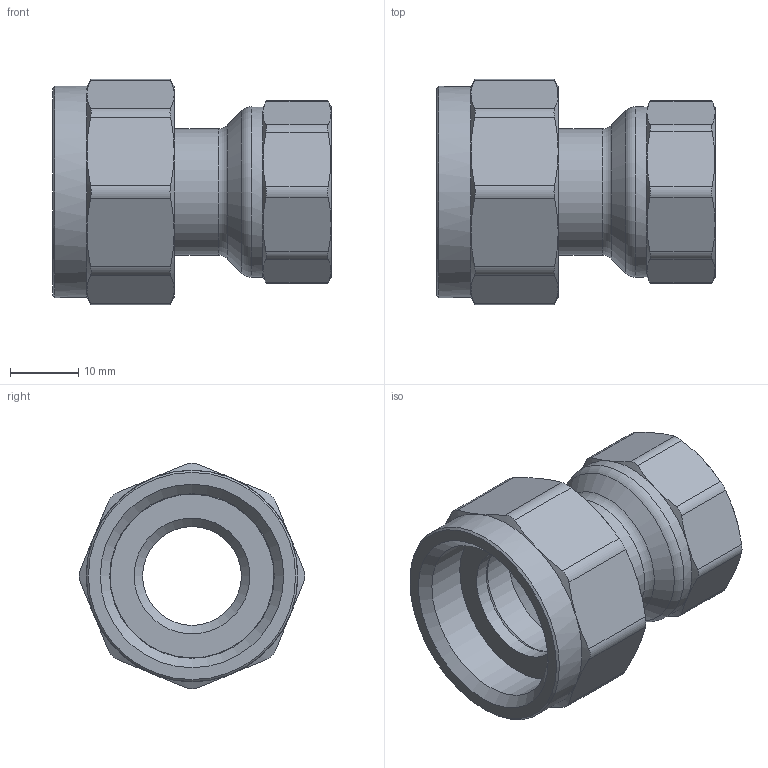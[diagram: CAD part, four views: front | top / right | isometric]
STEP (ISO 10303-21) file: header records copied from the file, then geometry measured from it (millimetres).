
FILE_DESCRIPTION(('STEP AP242'), '1');
FILE_NAME('VTr.614.N.0504', '', ('UNSPECIFIED'), ('UNSPECIFIED'), 'C3D Converter', 'C3D Toolkit', '');
FILE_SCHEMA(('AP242_MANAGED_MODEL_BASED_3D_ENGINEERING_MIM_LF { 1 0 10303 442 1 1 4 }'));
Length unit declared in the file: millimetre
Bounding box: 40.83 x 33.14 x 33.14 mm (x, y, z)
Volume: 11773.3 mm3; surface area: 8926.9 mm2
Topology: 1 solids, 2 shells, 102 faces, 230 edges, 137 vertices
Faces by surface type: cone 40, cylinder 29, plane 27, torus 6
Full cylindrical faces by diameter (mm): 14.5 x1, 17 x1, 17.5 x1, 18.5 x1, 18.632 x1, 21.4 x1, 24 x1, 24.118 x1, 24.2 x1, 24.3 x1, 25 x1, 26.7 x1, 31 x1
Entity records: 5050 total; most frequent: CARTESIAN_POINT 2992, ORIENTED_EDGE 400, DIRECTION 382, EDGE_CURVE 200, AXIS2_PLACEMENT_3D 175, EDGE_LOOP 141, VERTEX_POINT 137, ADVANCED_FACE 102
